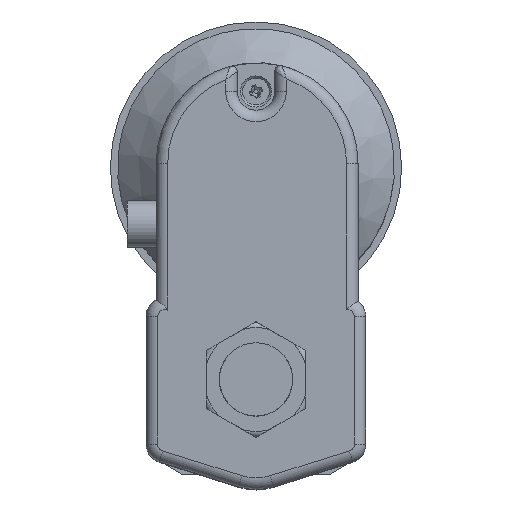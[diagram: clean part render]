
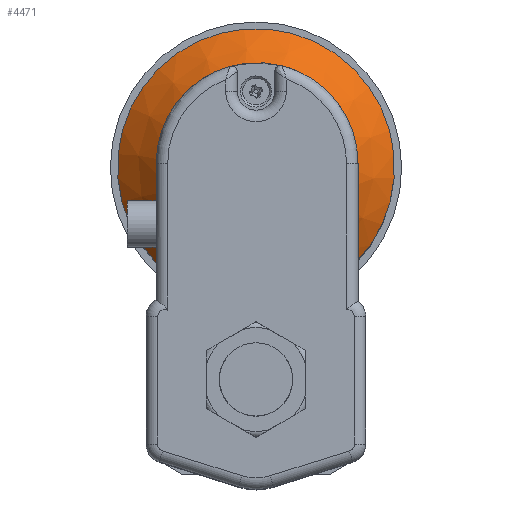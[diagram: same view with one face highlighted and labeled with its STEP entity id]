
A CAD part, top view. The second image highlights one B-rep face of the part: STEP entity #4471.
In plain terms, the highlighted conical face has half-angle 45 degrees and reference radius 48 mm.
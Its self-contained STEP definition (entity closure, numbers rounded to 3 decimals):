
#64 = B_SPLINE_CURVE_WITH_KNOTS ( 'NONE', 3,
 ( #8396, #9813, #9811, #9810, #9809, #9808, #9807, #9806, #9805, #9804, #9803, #9802, #9801, #9800, #9799, #9798, #9797, #9796, #9795, #9794, #9793, #9792, #9791, #9790, #9788, #9787 ),
 .UNSPECIFIED., .F., .F.,
 ( 4, 2, 2, 2, 2, 2, 2, 2, 2, 2, 2, 2, 4 ),
 ( 0., 0.004, 0.007, 0.015, 0.018, 0.022, 0.026, 0.029, 0.037, 0.04, 0.044, 0.051, 0.059 ),
 .UNSPECIFIED. ) ;
#68 = EDGE_LOOP ( 'NONE', ( #144, #110 ) ) ;
#110 = ORIENTED_EDGE ( 'NONE', *, *, #4123, .T. ) ;
#144 = ORIENTED_EDGE ( 'NONE', *, *, #4152, .T. ) ;
#244 = ORIENTED_EDGE ( 'NONE', *, *, #4153, .F. ) ;
#275 = EDGE_LOOP ( 'NONE', ( #244 ) ) ;
#878 = VERTEX_POINT ( 'NONE', #879 ) ;
#879 = CARTESIAN_POINT ( 'NONE',  ( 0., 39.9, 67.5 ) ) ;
#1184 = VERTEX_POINT ( 'NONE', #1728 ) ;
#1349 = CARTESIAN_POINT ( 'NONE',  ( 27.908, 34.847, 53.5 ) ) ;
#1634 = VERTEX_POINT ( 'NONE', #1349 ) ;
#1728 = CARTESIAN_POINT ( 'NONE',  ( -27.908, 34.847, 53.5 ) ) ;
#3807 = AXIS2_PLACEMENT_3D ( 'NONE', #6952, #6965, #6966 ) ;
#3810 = AXIS2_PLACEMENT_3D ( 'NONE', #6957, #6967, #6968 ) ;
#3952 = AXIS2_PLACEMENT_3D ( 'NONE', #7836, #7837, #7825 ) ;
#4123 = EDGE_CURVE ( 'NONE', #1184, #1634, #64, .T. ) ;
#4152 = EDGE_CURVE ( 'NONE', #1634, #1184, #6662, .T. ) ;
#4153 = EDGE_CURVE ( 'NONE', #878, #878, #6664, .T. ) ;
#4471 = ADVANCED_FACE ( 'NONE', ( #9039, #9036 ), #9037, .T. ) ;
#6662 = CIRCLE ( 'NONE', #3807, 48. ) ;
#6664 = CIRCLE ( 'NONE', #3810, 34. ) ;
#6952 = CARTESIAN_POINT ( 'NONE',  ( 0., 73.9, 53.5 ) ) ;
#6957 = CARTESIAN_POINT ( 'NONE',  ( 0., 73.9, 67.5 ) ) ;
#6965 = DIRECTION ( 'NONE',  ( 0., 0., 1. ) ) ;
#6966 = DIRECTION ( 'NONE',  ( 0., -1., 0. ) ) ;
#6967 = DIRECTION ( 'NONE',  ( 0., 0., 1. ) ) ;
#6968 = DIRECTION ( 'NONE',  ( 0., -1., 0. ) ) ;
#7825 = DIRECTION ( 'NONE',  ( 0., 1., 0. ) ) ;
#7836 = CARTESIAN_POINT ( 'NONE',  ( 0., 73.9, 53.5 ) ) ;
#7837 = DIRECTION ( 'NONE',  ( 0., 0., -1. ) ) ;
#8396 = CARTESIAN_POINT ( 'NONE',  ( -27.908, 34.847, 53.5 ) ) ;
#9036 = FACE_OUTER_BOUND ( 'NONE', #68, .T. ) ;
#9037 = CONICAL_SURFACE ( 'NONE', #3952, 48., 0.785 ) ;
#9039 = FACE_BOUND ( 'NONE', #275, .T. ) ;
#9787 = CARTESIAN_POINT ( 'NONE',  ( 27.908, 34.847, 53.5 ) ) ;
#9788 = CARTESIAN_POINT ( 'NONE',  ( 25.745, 34.688, 54.629 ) ) ;
#9790 = CARTESIAN_POINT ( 'NONE',  ( 23.55, 34.529, 55.668 ) ) ;
#9791 = CARTESIAN_POINT ( 'NONE',  ( 19.078, 34.224, 57.523 ) ) ;
#9792 = CARTESIAN_POINT ( 'NONE',  ( 16.801, 34.078, 58.337 ) ) ;
#9793 = CARTESIAN_POINT ( 'NONE',  ( 13.307, 33.888, 59.348 ) ) ;
#9794 = CARTESIAN_POINT ( 'NONE',  ( 12.13, 33.83, 59.65 ) ) ;
#9795 = CARTESIAN_POINT ( 'NONE',  ( 9.746, 33.726, 60.177 ) ) ;
#9796 = CARTESIAN_POINT ( 'NONE',  ( 8.537, 33.68, 60.402 ) ) ;
#9797 = CARTESIAN_POINT ( 'NONE',  ( 4.908, 33.569, 60.942 ) ) ;
#9798 = CARTESIAN_POINT ( 'NONE',  ( 2.477, 33.529, 61.127 ) ) ;
#9799 = CARTESIAN_POINT ( 'NONE',  ( -1.188, 33.529, 61.13 ) ) ;
#9800 = CARTESIAN_POINT ( 'NONE',  ( -2.415, 33.538, 61.085 ) ) ;
#9801 = CARTESIAN_POINT ( 'NONE',  ( -4.863, 33.577, 60.903 ) ) ;
#9802 = CARTESIAN_POINT ( 'NONE',  ( -6.081, 33.605, 60.767 ) ) ;
#9803 = CARTESIAN_POINT ( 'NONE',  ( -8.505, 33.679, 60.407 ) ) ;
#9804 = CARTESIAN_POINT ( 'NONE',  ( -9.715, 33.725, 60.183 ) ) ;
#9805 = CARTESIAN_POINT ( 'NONE',  ( -12.101, 33.829, 59.657 ) ) ;
#9806 = CARTESIAN_POINT ( 'NONE',  ( -13.28, 33.887, 59.356 ) ) ;
#9807 = CARTESIAN_POINT ( 'NONE',  ( -16.779, 34.077, 58.344 ) ) ;
#9808 = CARTESIAN_POINT ( 'NONE',  ( -19.06, 34.223, 57.53 ) ) ;
#9809 = CARTESIAN_POINT ( 'NONE',  ( -22.421, 34.452, 56.137 ) ) ;
#9810 = CARTESIAN_POINT ( 'NONE',  ( -23.531, 34.53, 55.644 ) ) ;
#9811 = CARTESIAN_POINT ( 'NONE',  ( -25.733, 34.688, 54.609 ) ) ;
#9813 = CARTESIAN_POINT ( 'NONE',  ( -26.826, 34.768, 54.065 ) ) ;
